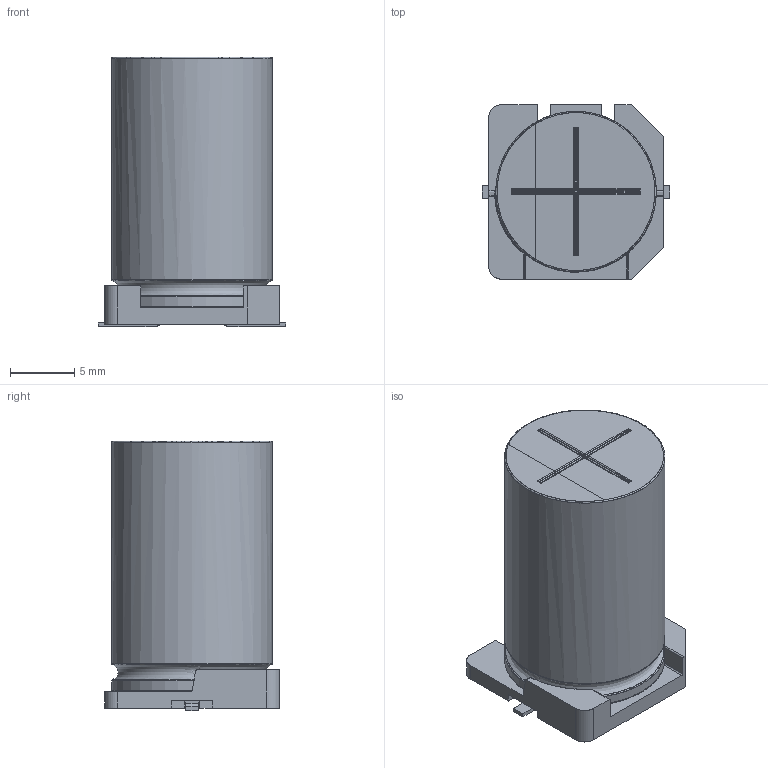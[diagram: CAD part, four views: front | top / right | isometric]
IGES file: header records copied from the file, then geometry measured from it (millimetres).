
Start section: JAMA-IS VERSION  1.0
Bounding box: 14.6 x 13.6 x 21 mm (x, y, z)
Surface area: 1597.7 mm2 (no closed solid volume)
Topology: 0 solids, 0 shells, 146 faces, 1299 edges, 1278 vertices
Faces by surface type: bspline 146
